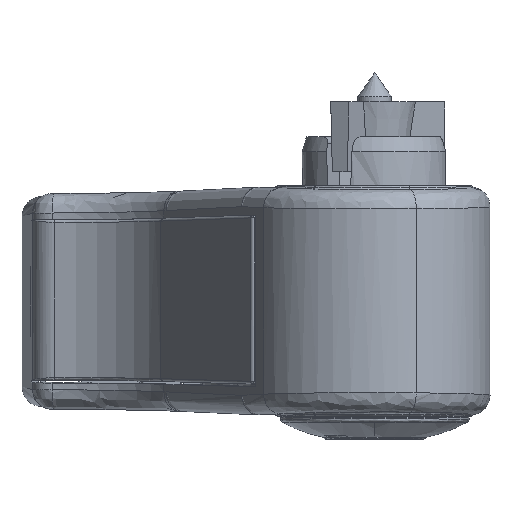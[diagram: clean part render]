
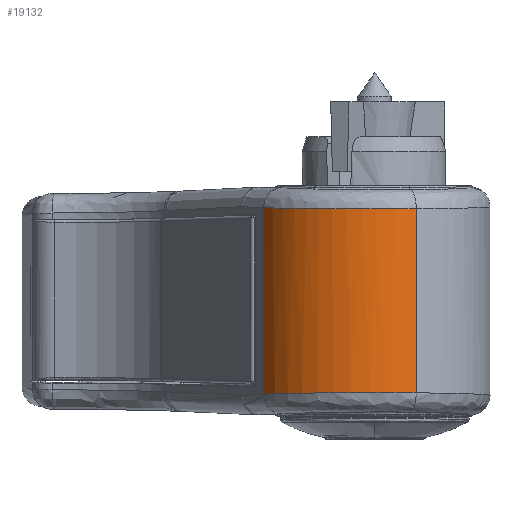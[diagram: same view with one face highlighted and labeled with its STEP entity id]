
A CAD part, top view. The second image highlights one B-rep face of the part: STEP entity #19132.
In plain terms, the highlighted cylindrical face has radius 17.65 mm (diameter 35.3 mm), a partial arc.
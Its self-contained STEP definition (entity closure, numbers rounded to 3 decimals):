
#104 = FACE_OUTER_BOUND ( 'NONE', #5017, .T. ) ;
#1632 = CARTESIAN_POINT ( 'NONE',  ( 47.579, -66.835, 65.795 ) ) ;
#1700 = CARTESIAN_POINT ( 'NONE',  ( 46.157, -93.176, 65.286 ) ) ;
#1954 = AXIS2_PLACEMENT_3D ( 'NONE', #16611, #24655, #6569 ) ;
#1963 = CARTESIAN_POINT ( 'NONE',  ( 45.826, -93.179, 65.149 ) ) ;
#2149 = CARTESIAN_POINT ( 'NONE',  ( 46.817, -66.83, 65.537 ) ) ;
#3414 = CARTESIAN_POINT ( 'NONE',  ( 55.027, -93.148, 66.562 ) ) ;
#3788 = LINE ( 'NONE', #15958, #18833 ) ;
#3938 = CARTESIAN_POINT ( 'NONE',  ( 39.939, -93.269, 61.082 ) ) ;
#3995 = CARTESIAN_POINT ( 'NONE',  ( 38.508, -66.693, 59.364 ) ) ;
#4116 = VERTEX_POINT ( 'NONE', #10098 ) ;
#4324 = CARTESIAN_POINT ( 'NONE',  ( 59.144, -93.174, 65.392 ) ) ;
#4703 = VERTEX_POINT ( 'NONE', #10232 ) ;
#5017 = EDGE_LOOP ( 'NONE', ( #6121, #19595, #9639, #18857 ) ) ;
#5277 = B_SPLINE_CURVE_WITH_KNOTS ( 'NONE', 3,
 ( #7526, #22059, #7663, #3938, #15724, #20076, #23759, #23627, #5671, #17830, #1963, #1700, #18094, #5543, #26138, #16118, #25875, #13494, #7791, #15852, #3414, #18346, #4324 ),
 .UNSPECIFIED., .F., .F.,
 ( 4, 2, 2, 2, 2, 2, 1, 1, 1, 2, 2, 2, 4 ),
 ( 0., 0.125, 0.25, 0.375, 0.437, 0.469, 0.484, 0.492, 0.496, 0.498, 0.5, 0.75, 1. ),
 .UNSPECIFIED. ) ;
#5543 = CARTESIAN_POINT ( 'NONE',  ( 46.516, -93.173, 65.426 ) ) ;
#5671 = CARTESIAN_POINT ( 'NONE',  ( 44.945, -93.188, 64.748 ) ) ;
#5736 = CARTESIAN_POINT ( 'NONE',  ( 46.74, -66.829, 65.51 ) ) ;
#5867 = VERTEX_POINT ( 'NONE', #21247 ) ;
#6121 = ORIENTED_EDGE ( 'NONE', *, *, #23298, .T. ) ;
#6122 = CARTESIAN_POINT ( 'NONE',  ( 42.349, -66.777, 63.2 ) ) ;
#6249 = CARTESIAN_POINT ( 'NONE',  ( 51.85, -66.852, 66.584 ) ) ;
#6569 = DIRECTION ( 'NONE',  ( 1., 0., 0. ) ) ;
#7526 = CARTESIAN_POINT ( 'NONE',  ( 37.291, -93.35, 57.379 ) ) ;
#7663 = CARTESIAN_POINT ( 'NONE',  ( 38.508, -93.307, 59.364 ) ) ;
#7725 = CARTESIAN_POINT ( 'NONE',  ( 45.826, -66.822, 65.175 ) ) ;
#7791 = CARTESIAN_POINT ( 'NONE',  ( 48.681, -93.155, 66.221 ) ) ;
#7986 = CARTESIAN_POINT ( 'NONE',  ( 46.925, -66.83, 65.576 ) ) ;
#8448 = DIRECTION ( 'NONE',  ( 0., 1., 0. ) ) ;
#8554 = CYLINDRICAL_SURFACE ( 'NONE', #1954, 17.65 ) ;
#8996 = EDGE_CURVE ( 'NONE', #4703, #21668, #12791, .T. ) ;
#9639 = ORIENTED_EDGE ( 'NONE', *, *, #8996, .T. ) ;
#9830 = CARTESIAN_POINT ( 'NONE',  ( 44.941, -66.812, 64.77 ) ) ;
#10098 = CARTESIAN_POINT ( 'NONE',  ( 37.291, -93.35, 57.379 ) ) ;
#10232 = CARTESIAN_POINT ( 'NONE',  ( 59.144, -66.826, 65.392 ) ) ;
#11875 = DIRECTION ( 'NONE',  ( 0., 1., 0. ) ) ;
#11963 = CARTESIAN_POINT ( 'NONE',  ( 48.72, -66.842, 66.111 ) ) ;
#12292 = EDGE_CURVE ( 'NONE', #4116, #21668, #16243, .T. ) ;
#12344 = CARTESIAN_POINT ( 'NONE',  ( 59.144, -66.826, 65.392 ) ) ;
#12791 = B_SPLINE_CURVE_WITH_KNOTS ( 'NONE', 3,
 ( #12344, #17761, #14082, #6249, #15918, #22246, #11963, #25808, #1632, #23823, #7986, #2149, #14326, #5736, #16175, #7725, #9830, #22117, #6122, #15785, #18282, #3995, #13827, #21864 ),
 .UNSPECIFIED., .F., .F.,
 ( 4, 2, 2, 2, 1, 1, 1, 1, 2, 2, 2, 2, 2, 4 ),
 ( 0., 0.25, 0.375, 0.438, 0.469, 0.484, 0.492, 0.496, 0.498, 0.5, 0.625, 0.75, 0.875, 1. ),
 .UNSPECIFIED. ) ;
#13494 = CARTESIAN_POINT ( 'NONE',  ( 46.694, -93.171, 65.493 ) ) ;
#13827 = CARTESIAN_POINT ( 'NONE',  ( 37.855, -66.672, 58.413 ) ) ;
#14082 = CARTESIAN_POINT ( 'NONE',  ( 55.027, -66.852, 66.562 ) ) ;
#14326 = CARTESIAN_POINT ( 'NONE',  ( 46.771, -66.829, 65.521 ) ) ;
#14409 = CARTESIAN_POINT ( 'NONE',  ( 37.291, -79.88, 57.379 ) ) ;
#15377 = VECTOR ( 'NONE', #8448, 1000. ) ;
#15724 = CARTESIAN_POINT ( 'NONE',  ( 40.718, -93.252, 61.85 ) ) ;
#15754 = CARTESIAN_POINT ( 'NONE',  ( 37.291, -66.65, 57.379 ) ) ;
#15785 = CARTESIAN_POINT ( 'NONE',  ( 40.718, -66.748, 61.85 ) ) ;
#15852 = CARTESIAN_POINT ( 'NONE',  ( 50.791, -93.148, 66.592 ) ) ;
#15918 = CARTESIAN_POINT ( 'NONE',  ( 50.793, -66.85, 66.496 ) ) ;
#15958 = CARTESIAN_POINT ( 'NONE',  ( 59.144, -94.685, 65.392 ) ) ;
#16118 = CARTESIAN_POINT ( 'NONE',  ( 46.654, -93.172, 65.478 ) ) ;
#16175 = CARTESIAN_POINT ( 'NONE',  ( 46.723, -66.829, 65.503 ) ) ;
#16243 = LINE ( 'NONE', #14409, #15377 ) ;
#16611 = CARTESIAN_POINT ( 'NONE',  ( 52.786, -93.51, 48.927 ) ) ;
#17761 = CARTESIAN_POINT ( 'NONE',  ( 57.152, -66.843, 66.162 ) ) ;
#17830 = CARTESIAN_POINT ( 'NONE',  ( 45.606, -93.181, 65.053 ) ) ;
#18094 = CARTESIAN_POINT ( 'NONE',  ( 46.323, -93.175, 65.352 ) ) ;
#18282 = CARTESIAN_POINT ( 'NONE',  ( 39.939, -66.731, 61.082 ) ) ;
#18346 = CARTESIAN_POINT ( 'NONE',  ( 57.152, -93.157, 66.162 ) ) ;
#18833 = VECTOR ( 'NONE', #11875, 1000. ) ;
#18857 = ORIENTED_EDGE ( 'NONE', *, *, #12292, .F. ) ;
#19132 = ADVANCED_FACE ( 'NONE', ( #104 ), #8554, .T. ) ;
#19595 = ORIENTED_EDGE ( 'NONE', *, *, #19656, .T. ) ;
#19656 = EDGE_CURVE ( 'NONE', #5867, #4703, #3788, .T. ) ;
#20076 = CARTESIAN_POINT ( 'NONE',  ( 42.349, -93.223, 63.2 ) ) ;
#21247 = CARTESIAN_POINT ( 'NONE',  ( 59.144, -93.174, 65.392 ) ) ;
#21668 = VERTEX_POINT ( 'NONE', #15754 ) ;
#21864 = CARTESIAN_POINT ( 'NONE',  ( 37.291, -66.65, 57.379 ) ) ;
#22059 = CARTESIAN_POINT ( 'NONE',  ( 37.855, -93.328, 58.413 ) ) ;
#22117 = CARTESIAN_POINT ( 'NONE',  ( 43.203, -66.79, 63.783 ) ) ;
#22246 = CARTESIAN_POINT ( 'NONE',  ( 49.235, -66.844, 66.224 ) ) ;
#23298 = EDGE_CURVE ( 'NONE', #4116, #5867, #5277, .T. ) ;
#23627 = CARTESIAN_POINT ( 'NONE',  ( 44.507, -93.193, 64.523 ) ) ;
#23759 = CARTESIAN_POINT ( 'NONE',  ( 43.203, -93.21, 63.783 ) ) ;
#23823 = CARTESIAN_POINT ( 'NONE',  ( 47.142, -66.832, 65.652 ) ) ;
#24655 = DIRECTION ( 'NONE',  ( 0., 1., 0. ) ) ;
#25808 = CARTESIAN_POINT ( 'NONE',  ( 47.958, -66.838, 65.906 ) ) ;
#25875 = CARTESIAN_POINT ( 'NONE',  ( 46.682, -93.172, 65.488 ) ) ;
#26138 = CARTESIAN_POINT ( 'NONE',  ( 46.613, -93.172, 65.463 ) ) ;
